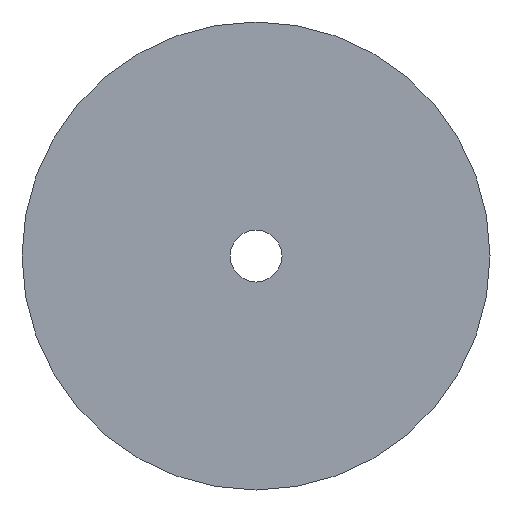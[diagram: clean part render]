
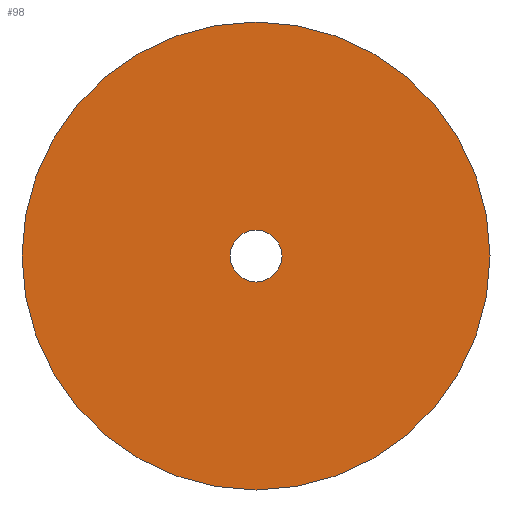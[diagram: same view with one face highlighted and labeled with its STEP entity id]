
A CAD part, front view. The second image highlights one B-rep face of the part: STEP entity #98.
In plain terms, the highlighted planar face has unit normal (0, -1, 0).
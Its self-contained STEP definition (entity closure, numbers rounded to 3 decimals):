
#14 = EDGE_CURVE ( 'NONE', #20, #75, #130, .T. ) ;
#20 = VERTEX_POINT ( 'NONE', #175 ) ;
#29 = ORIENTED_EDGE ( 'NONE', *, *, #65, .T. ) ;
#38 = EDGE_CURVE ( 'NONE', #75, #20, #231, .T. ) ;
#47 = EDGE_CURVE ( 'NONE', #48, #77, #88, .T. ) ;
#48 = VERTEX_POINT ( 'NONE', #93 ) ;
#60 = EDGE_LOOP ( 'NONE', ( #380, #151 ) ) ;
#61 = EDGE_LOOP ( 'NONE', ( #76, #29 ) ) ;
#65 = EDGE_CURVE ( 'NONE', #77, #48, #136, .T. ) ;
#75 = VERTEX_POINT ( 'NONE', #173 ) ;
#76 = ORIENTED_EDGE ( 'NONE', *, *, #47, .T. ) ;
#77 = VERTEX_POINT ( 'NONE', #174 ) ;
#88 = CIRCLE ( 'NONE', #89, 3.5 ) ;
#89 = AXIS2_PLACEMENT_3D ( 'NONE', #90, #91, #92 ) ;
#90 = CARTESIAN_POINT ( 'NONE',  ( 0., 0., 0. ) ) ;
#91 = DIRECTION ( 'NONE',  ( 0., 1., 0. ) ) ;
#92 = DIRECTION ( 'NONE',  ( 0., 0., 1. ) ) ;
#93 = CARTESIAN_POINT ( 'NONE',  ( 0., 0., 3.5 ) ) ;
#98 = ADVANCED_FACE ( 'NONE', ( #188, #189 ), #190, .T. ) ;
#130 = CIRCLE ( 'NONE', #131, 31.5 ) ;
#131 = AXIS2_PLACEMENT_3D ( 'NONE', #132, #134, #135 ) ;
#132 = CARTESIAN_POINT ( 'NONE',  ( 0., 0., 0. ) ) ;
#134 = DIRECTION ( 'NONE',  ( 0., 1., 0. ) ) ;
#135 = DIRECTION ( 'NONE',  ( 0., 0., 1. ) ) ;
#136 = CIRCLE ( 'NONE', #137, 3.5 ) ;
#137 = AXIS2_PLACEMENT_3D ( 'NONE', #138, #139, #140 ) ;
#138 = CARTESIAN_POINT ( 'NONE',  ( 0., 0., 0. ) ) ;
#139 = DIRECTION ( 'NONE',  ( 0., 1., 0. ) ) ;
#140 = DIRECTION ( 'NONE',  ( 0., 0., 1. ) ) ;
#151 = ORIENTED_EDGE ( 'NONE', *, *, #38, .F. ) ;
#173 = CARTESIAN_POINT ( 'NONE',  ( 0., 0., 31.5 ) ) ;
#174 = CARTESIAN_POINT ( 'NONE',  ( 0., 0., -3.5 ) ) ;
#175 = CARTESIAN_POINT ( 'NONE',  ( 0., 0., -31.5 ) ) ;
#188 = FACE_BOUND ( 'NONE', #61, .T. ) ;
#189 = FACE_OUTER_BOUND ( 'NONE', #60, .T. ) ;
#190 = PLANE ( 'NONE',  #191 ) ;
#191 = AXIS2_PLACEMENT_3D ( 'NONE', #192, #193, #194 ) ;
#192 = CARTESIAN_POINT ( 'NONE',  ( -31.5, 0., 0. ) ) ;
#193 = DIRECTION ( 'NONE',  ( 0., -1., 0. ) ) ;
#194 = DIRECTION ( 'NONE',  ( 0., 0., -1. ) ) ;
#231 = CIRCLE ( 'NONE', #232, 31.5 ) ;
#232 = AXIS2_PLACEMENT_3D ( 'NONE', #233, #234, #235 ) ;
#233 = CARTESIAN_POINT ( 'NONE',  ( 0., 0., 0. ) ) ;
#234 = DIRECTION ( 'NONE',  ( 0., 1., 0. ) ) ;
#235 = DIRECTION ( 'NONE',  ( 0., 0., 1. ) ) ;
#380 = ORIENTED_EDGE ( 'NONE', *, *, #14, .F. ) ;
